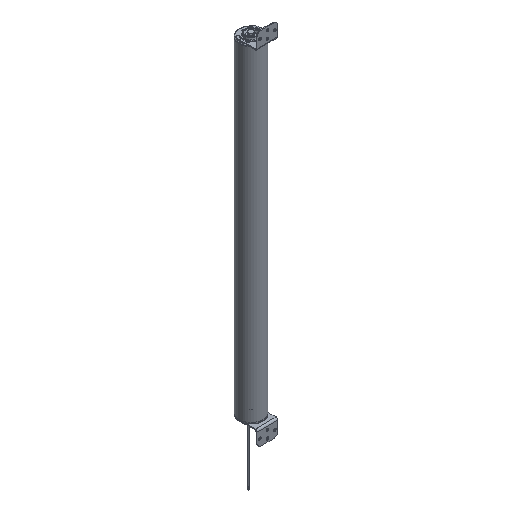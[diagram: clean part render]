
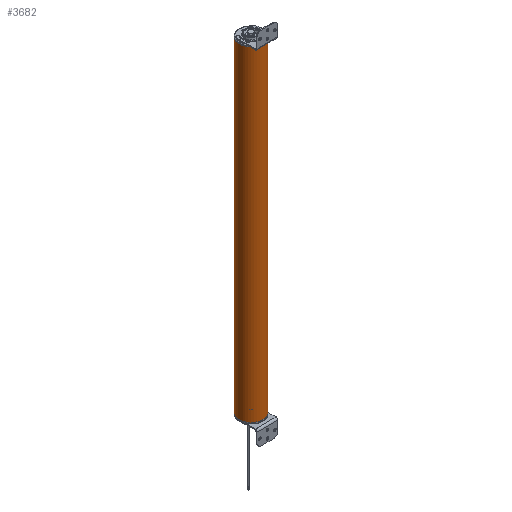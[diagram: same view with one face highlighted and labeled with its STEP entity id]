
A CAD part, isometric view. The second image highlights one B-rep face of the part: STEP entity #3682.
In plain terms, the highlighted cylindrical face has radius 40 mm (diameter 80 mm), a partial arc.
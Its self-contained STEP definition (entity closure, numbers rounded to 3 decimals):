
#843 = DIRECTION ( 'NONE',  ( 0., 0., -1. ) ) ;
#3682 = ADVANCED_FACE ( 'NONE', ( #14104 ), #19628, .T. ) ;
#4097 = CARTESIAN_POINT ( 'NONE',  ( 0., 0., 1090.7 ) ) ;
#6671 = EDGE_CURVE ( 'NONE', #9750, #27579, #39019, .T. ) ;
#6877 = AXIS2_PLACEMENT_3D ( 'NONE', #4097, #843, #16362 ) ;
#7237 = CARTESIAN_POINT ( 'NONE',  ( 0., 0., 1090.7 ) ) ;
#7294 = VERTEX_POINT ( 'NONE', #22065 ) ;
#7644 = DIRECTION ( 'NONE',  ( 0., 0., -1. ) ) ;
#7704 = DIRECTION ( 'NONE',  ( 0., 0., 1. ) ) ;
#8294 = DIRECTION ( 'NONE',  ( -1., 0., 0. ) ) ;
#9750 = VERTEX_POINT ( 'NONE', #39106 ) ;
#11496 = VERTEX_POINT ( 'NONE', #32472 ) ;
#12866 = LINE ( 'NONE', #22049, #28935 ) ;
#14104 = FACE_OUTER_BOUND ( 'NONE', #21138, .T. ) ;
#15227 = LINE ( 'NONE', #20742, #18541 ) ;
#16128 = ORIENTED_EDGE ( 'NONE', *, *, #35967, .F. ) ;
#16362 = DIRECTION ( 'NONE',  ( -1., 0., 0. ) ) ;
#17262 = AXIS2_PLACEMENT_3D ( 'NONE', #7237, #7644, #19502 ) ;
#18176 = AXIS2_PLACEMENT_3D ( 'NONE', #35685, #7704, #8294 ) ;
#18541 = VECTOR ( 'NONE', #27687, 1000. ) ;
#19502 = DIRECTION ( 'NONE',  ( -1., 0., 0. ) ) ;
#19628 = CYLINDRICAL_SURFACE ( 'NONE', #6877, 40. ) ;
#20742 = CARTESIAN_POINT ( 'NONE',  ( 40., 0., 1090.7 ) ) ;
#21138 = EDGE_LOOP ( 'NONE', ( #24964, #25812, #24265, #16128 ) ) ;
#22049 = CARTESIAN_POINT ( 'NONE',  ( -40., 0., 1090.7 ) ) ;
#22065 = CARTESIAN_POINT ( 'NONE',  ( -40., 0., 1090.7 ) ) ;
#24265 = ORIENTED_EDGE ( 'NONE', *, *, #6671, .T. ) ;
#24964 = ORIENTED_EDGE ( 'NONE', *, *, #32001, .T. ) ;
#25321 = DIRECTION ( 'NONE',  ( 0., 0., -1. ) ) ;
#25812 = ORIENTED_EDGE ( 'NONE', *, *, #36485, .T. ) ;
#27579 = VERTEX_POINT ( 'NONE', #29151 ) ;
#27687 = DIRECTION ( 'NONE',  ( 0., 0., -1. ) ) ;
#28935 = VECTOR ( 'NONE', #25321, 1000. ) ;
#29151 = CARTESIAN_POINT ( 'NONE',  ( -40., 0., 0. ) ) ;
#32001 = EDGE_CURVE ( 'NONE', #7294, #11496, #34884, .T. ) ;
#32472 = CARTESIAN_POINT ( 'NONE',  ( 40., 0., 1090.7 ) ) ;
#34884 = CIRCLE ( 'NONE', #17262, 40. ) ;
#35685 = CARTESIAN_POINT ( 'NONE',  ( 0., 0., 0. ) ) ;
#35967 = EDGE_CURVE ( 'NONE', #7294, #27579, #12866, .T. ) ;
#36485 = EDGE_CURVE ( 'NONE', #11496, #9750, #15227, .T. ) ;
#39019 = CIRCLE ( 'NONE', #18176, 40. ) ;
#39106 = CARTESIAN_POINT ( 'NONE',  ( 40., 0., 0. ) ) ;
